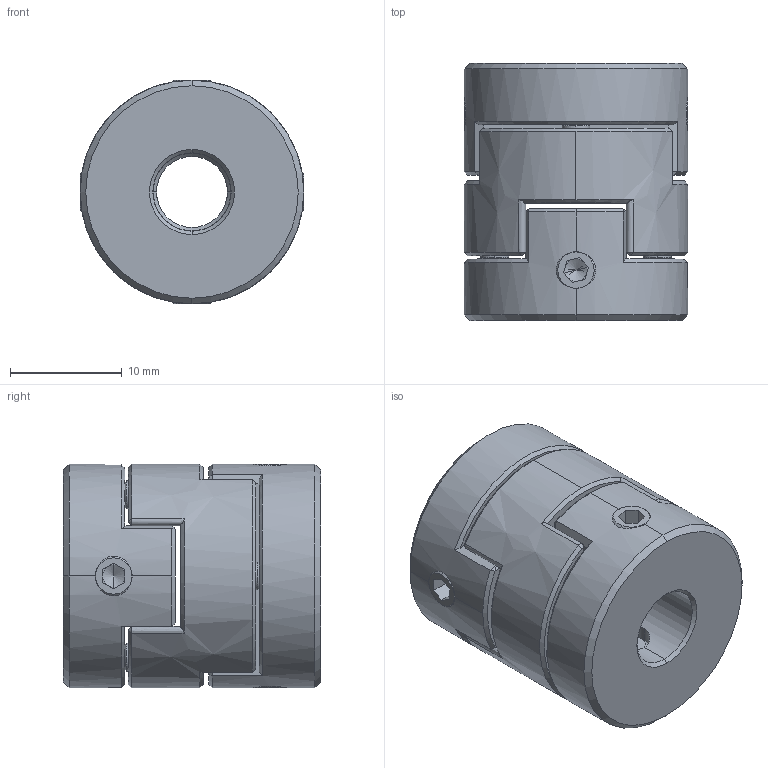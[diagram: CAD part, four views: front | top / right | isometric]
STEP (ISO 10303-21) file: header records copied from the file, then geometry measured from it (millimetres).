
FILE_DESCRIPTION (( 'STEP AP203' ), '1' );
FILE_NAME ('LZ-D-D20L23-6.35-7.STEP', '2021-10-30T01:45:35', ( '' ), ( '' ), 'SwSTEP 2.0', 'SolidWorks 2018', '' );
FILE_SCHEMA (( 'CONFIG_CONTROL_DESIGN' ));
Length unit declared in the file: millimetre
Products named in the file (1): LZ-D-D20L23-6.35-7
Bounding box: 20 x 23 x 20 mm (x, y, z)
Volume: 6050.1 mm3; surface area: 4116.8 mm2
Topology: 3 solids, 3 shells, 230 faces, 586 edges, 364 vertices
Faces by surface type: plane 116, cone 54, cylinder 34, bspline 26
Entity records: 9741 total; most frequent: CARTESIAN_POINT 4459, ORIENTED_EDGE 1156, DIRECTION 978, EDGE_CURVE 578, VERTEX_POINT 364, AXIS2_PLACEMENT_3D 357, LINE 264, VECTOR 264
